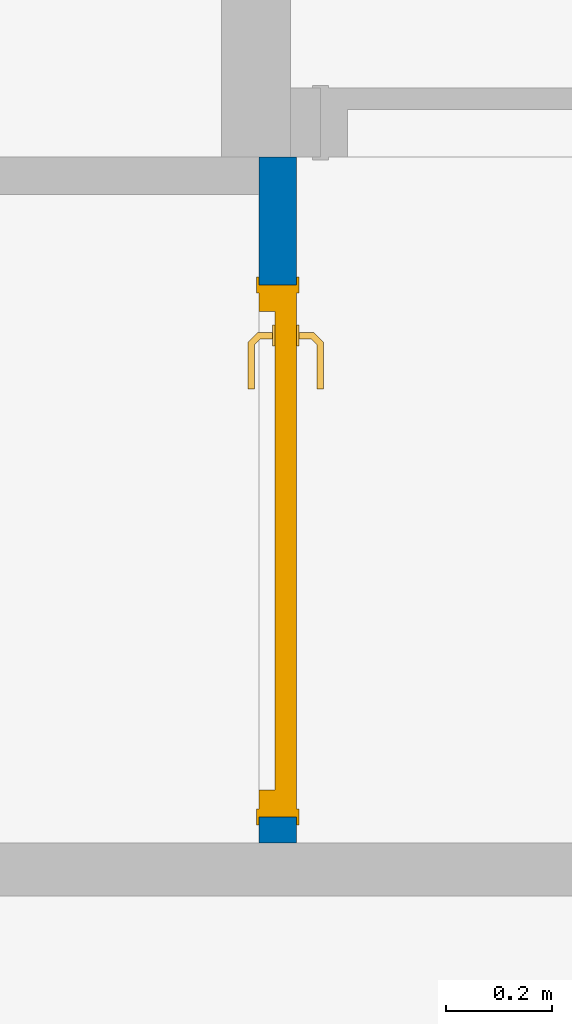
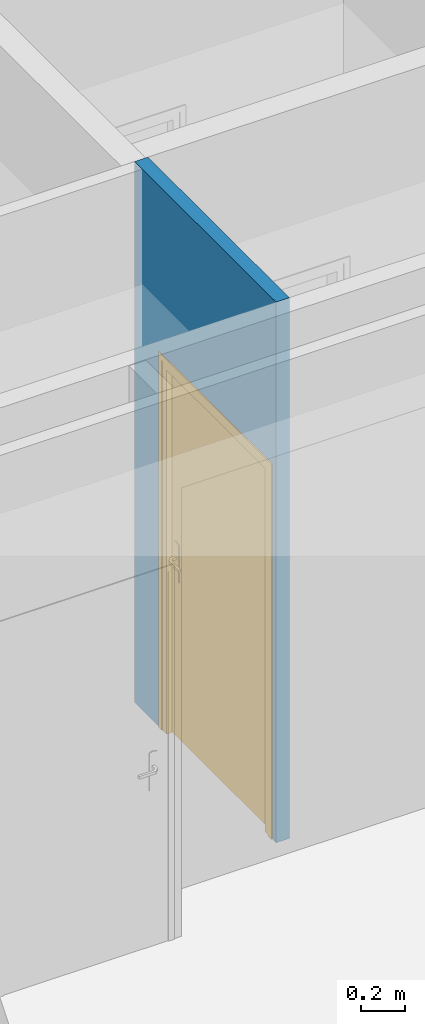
# One storey, part 38 of 97: 1 door, 1 wall, 1 opening.
"""IFC4 building model written with IfcOpenShell, lengths in metres."""

from ifc_helpers import new_model, entity, si_unit, converted_unit, derived_unit, direction, frame, origin, place, context, subcontext, project, spatial, indexed_curve, outline, extrude, polygons, source, transform, mapped, material, material_list, layer, layer_set, constituent, constituent_set, type_object, type_shapes, element, fill, save


model = new_model("IFC4")

# Units and contexts
model_context = context("Model", 3, precision=1e-05, world=origin(), true_north=direction((6.12303176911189e-17, 1.0)))
body_context = subcontext(model_context, "Body", "Model", "MODEL_VIEW")
ifc_project = project(units=[si_unit("LENGTHUNIT", "METRE"), si_unit("AREAUNIT", "SQUARE_METRE"), si_unit("VOLUMEUNIT", "CUBIC_METRE"), converted_unit("PLANEANGLEUNIT", "DEGREE", entity("IfcRatioMeasure", 0.0174532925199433), si_unit("PLANEANGLEUNIT", "RADIAN"), dimensions=[0, 0, 0, 0, 0, 0, 0]), si_unit("MASSUNIT", "GRAM", prefix="KILO"), derived_unit("MASSDENSITYUNIT", [(si_unit("MASSUNIT", "GRAM", prefix="KILO"), 1), (si_unit("LENGTHUNIT", "METRE"), -3)]), derived_unit("MOMENTOFINERTIAUNIT", [(si_unit("LENGTHUNIT", "METRE"), 4)]), si_unit("TIMEUNIT", "SECOND"), si_unit("FREQUENCYUNIT", "HERTZ"), si_unit("THERMODYNAMICTEMPERATUREUNIT", "DEGREE_CELSIUS"), derived_unit("THERMALTRANSMITTANCEUNIT", [(si_unit("MASSUNIT", "GRAM", prefix="KILO"), 1), (si_unit("THERMODYNAMICTEMPERATUREUNIT", "KELVIN"), -1), (si_unit("TIMEUNIT", "SECOND"), -3)]), derived_unit("VOLUMETRICFLOWRATEUNIT", [(si_unit("LENGTHUNIT", "METRE"), 3), (si_unit("TIMEUNIT", "SECOND"), -1)]), si_unit("ELECTRICCURRENTUNIT", "AMPERE"), si_unit("ELECTRICVOLTAGEUNIT", "VOLT"), si_unit("POWERUNIT", "WATT"), si_unit("FORCEUNIT", "NEWTON", prefix="KILO"), si_unit("ILLUMINANCEUNIT", "LUX"), si_unit("LUMINOUSFLUXUNIT", "LUMEN"), si_unit("LUMINOUSINTENSITYUNIT", "CANDELA"), derived_unit("USERDEFINED", [(si_unit("MASSUNIT", "GRAM", prefix="KILO"), -1), (si_unit("LENGTHUNIT", "METRE"), -2), (si_unit("TIMEUNIT", "SECOND"), 3), (si_unit("LUMINOUSFLUXUNIT", "LUMEN"), 1)]), derived_unit("LINEARVELOCITYUNIT", [(si_unit("LENGTHUNIT", "METRE"), 1), (si_unit("TIMEUNIT", "SECOND"), -1)]), si_unit("PRESSUREUNIT", "PASCAL"), derived_unit("USERDEFINED", [(si_unit("LENGTHUNIT", "METRE"), -2), (si_unit("MASSUNIT", "GRAM", prefix="KILO"), 1), (si_unit("TIMEUNIT", "SECOND"), -2)]), derived_unit("LINEARFORCEUNIT", [(si_unit("MASSUNIT", "GRAM", prefix="KILO"), 1), (si_unit("LENGTHUNIT", "METRE"), 1), (si_unit("TIMEUNIT", "SECOND"), -2), (si_unit("LENGTHUNIT", "METRE"), -1)]), derived_unit("PLANARFORCEUNIT", [(si_unit("MASSUNIT", "GRAM", prefix="KILO"), 1), (si_unit("LENGTHUNIT", "METRE"), 1), (si_unit("TIMEUNIT", "SECOND"), -2), (si_unit("LENGTHUNIT", "METRE"), -2)])], contexts=[model_context])

# Site, building, storey
site_placement = place(None, origin())
site = spatial("IfcSite", under=ifc_project, at=site_placement, Name="Default", CompositionType="ELEMENT")
building_placement = place(site_placement, origin())
building = spatial("IfcBuilding", under=site, at=building_placement, Name="HOTEL CONSULAIRE BOULOGNE SUR MER", CompositionType="ELEMENT")
storey_placement = place(building_placement, frame((0.0, 0.0, 3.62152697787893)))
storey = spatial("IfcBuildingStorey", under=building, at=storey_placement, Name="Niveau 1", CompositionType="ELEMENT", Elevation=3.62152697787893)

# Wall, opening, door
ifc_material_1 = material(Name="Mur par défaut", Category="Divers")
ifc_layer = layer(ifc_material_1, 0.07, Name="Mur par défaut", Category="Divers")
ifc_layer_set = layer_set([ifc_layer], Name="Mur de base:Int. Plâtre 70 mm")
wall_type = type_object("IfcWallType", Name="Mur de base:Int. Plâtre 70 mm", PredefinedType="NOTDEFINED", material=ifc_layer_set)
wall_placement = place(storey_placement, frame((-2.55413283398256, -22.5250276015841, 0.0), z_axis=(0.0, 0.0, 1.0), x_axis=(0.0, -1.0, 0.0)))
wall = element("IfcWall", 1, at=wall_placement, inside=storey, type_object=wall_type, material=ifc_layer_set, Name="Mur de base:Int. Plâtre 70 mm", ObjectType="Mur de base:Int. Plâtre 70 mm", PredefinedType="NOTDEFINED", context=body_context, shape_type="Tessellation", body=[
    polygons([(0.240663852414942, -0.0349999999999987, 0.0), (0.0700000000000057, -0.034999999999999, 0.0), (0.0, -0.0349999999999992, 0.0), (-4.33146851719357e-15, 0.0236041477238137, 0.0), (4.33146851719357e-15, 0.0350000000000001, 0.0), (0.240663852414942, 0.0350000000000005, 0.0), (1.28966385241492, -0.0349999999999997, 3.01021454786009), (0.0700000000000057, -0.0349999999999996, 3.01021454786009), (4.33146851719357e-15, -0.0349999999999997, 3.01021454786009), (0.240663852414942, -0.0349999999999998, 2.075), (1.24066385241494, -0.0349999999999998, 2.075), (1.24066385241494, -0.0349999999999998, 0.0), (1.28966385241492, -0.0349999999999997, 0.0), (4.33146851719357e-15, 0.0350000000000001, 3.01021454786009), (1.28966385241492, 0.0350000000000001, 3.01021454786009), (1.28966385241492, 0.0350000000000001, 0.0), (1.24066385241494, 0.035, 0.0), (1.24066385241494, 0.035, 2.075), (0.240663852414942, 0.035, 2.075), (4.33146851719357e-15, 0.0236041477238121, 3.01021454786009)], [[[2, 3, 4, 5, 6, 1]], [[19, 18, 11, 10]], [[12, 17, 16, 13]], [[9, 3, 2, 1, 10, 11, 12, 13, 7, 8]], [[16, 17, 18, 19, 6, 5, 14, 15]], [[8, 7, 15, 14, 20, 9]], [[13, 16, 15, 7]], [[6, 19, 10, 1]], [[18, 17, 12, 11]], [[4, 3, 9, 20, 14, 5]]], closed=True),
])
opening_placement = place(wall_placement, frame((0.240663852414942, -0.0349999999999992, 0.0)))
opening = element("IfcOpeningElement", 2, at=opening_placement, cuts=wall, Name="Int. Simple:PP0.93x2.04:1", ObjectType="Opening", PredefinedType="OPENING", context=body_context, shape_type="SweptSolid", body=[
    extrude(outline(indexed_curve([(0.0, 1.0), (0.0, 0.0), (2.075, 0.0), (2.075, 1.0), (0.0, 1.0)], self_intersect=False)), frame((0.0, 0.0, 0.0), z_axis=(0.0, 1.0, 0.0), x_axis=(0.0, 0.0, 1.0)), (0.0, 0.0, 1.0), 0.07),
])
ifc_material_2 = material(Name="Finition Peinture - Blanc satiné", Category="Peinture")
ifc_constituent_1 = constituent(ifc_material_2, Name="Finition Peinture - Blanc satiné", Category="Matériaux")
ifc_material_3 = material(Name="Bois - Panneau de porte", Category="Bois")
ifc_constituent_2 = constituent(ifc_material_3, Name="Bois - Panneau de porte", Category="Matériaux")
ifc_material_4 = material(Name="Bois - Cadre de porte", Category="Bois")
ifc_constituent_3 = constituent(ifc_material_4, Name="Bois - Cadre de porte", Category="Matériaux")
ifc_constituent_set = constituent_set(constituents=[ifc_constituent_1, ifc_constituent_2, ifc_constituent_3], Name="MaterialConstituentSet")
ifc_material_list = material_list([ifc_material_3, ifc_material_4, ifc_material_2, ifc_material_4])
door_type = type_object("IfcDoorType", Name="Int. Simple:PP0.93x2.04", OperationType="NOTDEFINED", PredefinedType="DOOR", material=ifc_material_list)
shared_shape = source(origin(), body_context, "Body", "Tessellation", [
    polygons([(0.995000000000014, -0.00500000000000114, 0.870000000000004), (0.995000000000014, -0.00500000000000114, 1.08), (0.985352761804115, -0.00500000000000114, 1.08399601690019), (0.975000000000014, -0.00500000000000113, 1.08535898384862), (0.964647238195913, -0.00500000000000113, 1.08399601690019), (0.955000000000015, -0.00500000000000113, 1.08), (0.955000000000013, -0.00500000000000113, 0.870000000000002), (0.964647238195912, -0.00500000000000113, 0.866003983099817), (0.975000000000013, -0.00500000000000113, 0.86464101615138), (0.985352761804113, -0.00500000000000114, 0.866003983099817), (0.995000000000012, -1.15054632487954e-15, 0.870000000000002), (0.985352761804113, -1.14631637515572e-15, 0.866003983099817), (0.975000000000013, -1.1420864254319e-15, 0.86464101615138), (0.964647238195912, -1.13785647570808e-15, 0.866003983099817), (0.955000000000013, -1.13362652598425e-15, 0.870000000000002), (0.955000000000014, -1.13362652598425e-15, 1.08), (0.964647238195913, -1.13785647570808e-15, 1.08399601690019), (0.975000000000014, -1.1420864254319e-15, 1.08535898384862), (0.985352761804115, -1.14631637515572e-15, 1.08399601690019), (0.995000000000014, -1.15054632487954e-15, 1.08)], [[[1, 2, 3, 4, 5, 6, 7, 8, 9, 10]], [[20, 11, 12, 13, 14, 15, 16, 17, 18, 19]], [[10, 12, 11, 1]], [[9, 13, 12, 10]], [[8, 14, 13, 9]], [[8, 7, 15, 14]], [[15, 7, 6, 16]], [[5, 17, 16, 6]], [[4, 18, 17, 5]], [[3, 19, 18, 4]], [[3, 2, 20, 19]], [[11, 20, 2, 1]]], closed=True),
    polygons([(0.955000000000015, 0.0399999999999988, 1.08), (0.955000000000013, 0.0399999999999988, 0.870000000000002), (0.964647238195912, 0.0399999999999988, 0.866003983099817), (0.975000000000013, 0.0399999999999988, 0.86464101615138), (0.985352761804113, 0.0399999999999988, 0.866003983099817), (0.995000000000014, 0.0399999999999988, 0.870000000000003), (0.995000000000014, 0.0399999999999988, 1.08), (0.985352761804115, 0.0399999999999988, 1.08399601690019), (0.975000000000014, 0.0399999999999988, 1.08535898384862), (0.964647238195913, 0.0399999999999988, 1.08399601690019), (0.955000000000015, 0.0449999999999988, 1.08), (0.964647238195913, 0.0449999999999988, 1.08399601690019), (0.975000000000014, 0.0449999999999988, 1.08535898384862), (0.985352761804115, 0.0449999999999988, 1.08399601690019), (0.995000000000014, 0.0449999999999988, 1.08), (0.995000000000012, 0.0449999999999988, 0.870000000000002), (0.985352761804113, 0.0449999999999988, 0.866003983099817), (0.975000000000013, 0.0449999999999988, 0.86464101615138), (0.964647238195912, 0.0449999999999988, 0.866003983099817), (0.955000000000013, 0.0449999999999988, 0.870000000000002)], [[[6, 7, 8, 9, 10, 1, 2, 3, 4, 5]], [[13, 14, 15, 16, 17, 18, 19, 20, 11, 12]], [[10, 12, 11, 1]], [[9, 13, 12, 10]], [[8, 14, 13, 9]], [[8, 7, 15, 14]], [[16, 15, 7, 6]], [[5, 17, 16, 6]], [[4, 18, 17, 5]], [[3, 19, 18, 4]], [[3, 2, 20, 19]], [[20, 2, 1, 11]]], closed=True),
    polygons([(0.981000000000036, -0.00500000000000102, 1.00699999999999), (0.981000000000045, -0.00500000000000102, 0.992999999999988), (0.977025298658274, -0.00500000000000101, 0.99221955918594), (0.972974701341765, -0.00500000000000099, 0.992219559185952), (0.968999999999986, -0.00500000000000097, 0.993000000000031), (0.968999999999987, -0.00500000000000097, 1.007), (0.972974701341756, -0.00500000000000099, 1.00778044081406), (0.977025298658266, -0.00500000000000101, 1.00778044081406), (0.968999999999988, -0.0276803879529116, 1.007), (0.972974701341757, -0.029326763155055, 1.00778044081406), (0.977025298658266, -0.0310045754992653, 1.00778044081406), (0.981000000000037, -0.0326509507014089, 1.007), (0.968999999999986, -0.027680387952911, 0.993000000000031), (0.981000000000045, -0.0326509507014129, 0.992999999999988), (0.977025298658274, -0.0310045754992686, 0.99221955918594), (0.972974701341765, -0.0293267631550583, 0.992219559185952), (0.957652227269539, -0.0390281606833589, 1.007), (0.959298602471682, -0.043002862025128, 1.00778044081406), (0.960976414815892, -0.0470534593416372, 1.00778044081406), (0.962622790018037, -0.0510281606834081, 1.007), (0.957652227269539, -0.0390281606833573, 0.993000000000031), (0.96262279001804, -0.0510281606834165, 0.992999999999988), (0.960976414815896, -0.047053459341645, 0.99221955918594), (0.959298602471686, -0.0430028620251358, 0.992219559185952), (0.874981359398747, -0.0510281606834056, 1.007), (0.874981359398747, -0.0470534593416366, 1.00778044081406), (0.874981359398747, -0.0430028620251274, 1.00778044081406), (0.874981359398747, -0.039028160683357, 1.00699999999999), (0.874981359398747, -0.0390281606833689, 0.993000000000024), (0.874981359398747, -0.0430028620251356, 0.992219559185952), (0.874981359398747, -0.0470534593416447, 0.99221955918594), (0.874981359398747, -0.0510281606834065, 0.992999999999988), (0.922692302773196, -0.0510281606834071, 1.007), (0.917139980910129, -0.0450281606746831, 1.0078786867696), (0.916316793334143, -0.0390281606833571, 1.007), (0.922692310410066, -0.0510281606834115, 0.992999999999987), (0.917139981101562, -0.0450281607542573, 0.992121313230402), (0.916316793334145, -0.039028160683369, 0.993000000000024)], [[[7, 8, 1, 2, 3, 4, 5, 6]], [[17, 21, 38, 29, 28, 35]], [[1, 8, 11, 12]], [[8, 7, 10, 18, 19, 11]], [[7, 6, 9, 10]], [[13, 9, 6, 5]], [[25, 26, 27, 28, 29, 30, 31, 32]], [[4, 16, 13, 5]], [[4, 3, 15, 23, 24, 16]], [[2, 14, 15, 3]], [[12, 14, 2, 1]], [[12, 11, 19, 20]], [[10, 9, 17, 18]], [[21, 17, 9, 13]], [[13, 16, 24, 21]], [[15, 14, 22, 23]], [[20, 22, 14, 12]], [[34, 26, 33]], [[33, 26, 25]], [[33, 20, 19]], [[18, 35, 34]], [[35, 18, 17]], [[28, 27, 35]], [[34, 27, 26]], [[34, 35, 27]], [[34, 33, 19]], [[18, 34, 19]], [[37, 30, 38]], [[31, 37, 36]], [[24, 38, 21]], [[30, 29, 38]], [[31, 36, 32]], [[36, 23, 22]], [[37, 23, 36]], [[37, 24, 23]], [[37, 38, 24]], [[30, 37, 31]], [[22, 20, 33, 25, 32, 36]]], closed=True),
    polygons([(0.968999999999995, 0.044999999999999, 0.993000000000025), (0.972974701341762, 0.044999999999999, 0.992219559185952), (0.977025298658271, 0.044999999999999, 0.99221955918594), (0.981000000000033, 0.044999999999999, 0.992999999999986), (0.981000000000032, 0.044999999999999, 1.007), (0.977025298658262, 0.044999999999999, 1.00778044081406), (0.972974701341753, 0.044999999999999, 1.00778044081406), (0.968999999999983, 0.044999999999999, 1.007), (0.968999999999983, 0.0674852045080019, 1.007), (0.968999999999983, 0.067485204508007, 0.993000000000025), (0.981000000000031, 0.0724557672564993, 1.007), (0.977025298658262, 0.0708093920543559, 1.00778044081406), (0.972974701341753, 0.0691315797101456, 1.00778044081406), (0.981000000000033, 0.0724557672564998, 0.992999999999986), (0.972974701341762, 0.0691315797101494, 0.992219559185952), (0.977025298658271, 0.0708093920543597, 0.99221955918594), (0.957514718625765, 0.0789704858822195, 1.007), (0.957514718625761, 0.0789704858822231, 0.993000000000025), (0.962485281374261, 0.0909704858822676, 1.007), (0.960838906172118, 0.0869957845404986, 1.00778044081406), (0.959161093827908, 0.0829451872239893, 1.00778044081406), (0.962485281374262, 0.090970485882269, 0.992999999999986), (0.959161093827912, 0.0829451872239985, 0.992219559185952), (0.960838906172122, 0.0869957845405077, 0.99221955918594), (0.874954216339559, 0.0789704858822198, 0.993000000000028), (0.874954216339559, 0.078970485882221, 1.007), (0.874954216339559, 0.08294518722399, 1.00778044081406), (0.874954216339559, 0.0869957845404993, 1.00778044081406), (0.874954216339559, 0.0909704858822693, 1.007), (0.874954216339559, 0.0909704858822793, 0.992999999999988), (0.874954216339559, 0.0869957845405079, 0.99221955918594), (0.874954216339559, 0.0829451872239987, 0.992219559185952), (0.922554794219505, 0.0909704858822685, 1.007), (0.917057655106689, 0.0849704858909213, 1.0078786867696), (0.916234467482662, 0.0789704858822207, 1.007), (0.922554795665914, 0.0909704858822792, 0.992999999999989), (0.917057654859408, 0.0849704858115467, 0.992121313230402), (0.916234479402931, 0.0789704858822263, 0.993000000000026)], [[[2, 3, 4, 5, 6, 7, 8, 1]], [[18, 17, 35, 26, 25, 38]], [[9, 10, 1, 8]], [[27, 28, 29, 30, 31, 32, 25, 26]], [[7, 13, 9, 8]], [[7, 6, 12, 20, 21, 13]], [[5, 11, 12, 6]], [[11, 5, 4, 14]], [[4, 3, 16, 14]], [[3, 2, 15, 23, 24, 16]], [[2, 1, 10, 15]], [[17, 18, 10, 9]], [[9, 13, 21, 17]], [[11, 19, 20, 12]], [[22, 19, 11, 14]], [[14, 16, 24, 22]], [[15, 10, 18, 23]], [[34, 27, 35]], [[28, 34, 33]], [[21, 35, 17]], [[27, 26, 35]], [[28, 33, 29]], [[33, 20, 19]], [[34, 20, 33]], [[34, 21, 20]], [[34, 35, 21]], [[27, 34, 28]], [[19, 22, 36, 30, 29, 33]], [[37, 31, 36]], [[36, 31, 30]], [[36, 22, 24]], [[23, 38, 37]], [[38, 23, 18]], [[25, 32, 38]], [[37, 32, 31]], [[37, 38, 32]], [[37, 36, 24]], [[23, 37, 24]]], closed=True),
    polygons([(1.03500000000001, 0.04, 2.04), (1.03500000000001, 0.04, 0.0), (0.105000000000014, 0.04, 0.0), (0.105000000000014, 0.04, 2.04), (1.03500000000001, -5.07593966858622e-17, 2.04), (0.105000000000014, -5.07593966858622e-17, 2.04), (0.105000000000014, -5.07593966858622e-17, 0.0), (1.03500000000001, -5.07593966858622e-17, 0.0)], [[[3, 4, 1, 2]], [[8, 5, 6, 7]], [[5, 1, 4, 6]], [[6, 4, 3, 7]], [[7, 3, 2, 8]], [[8, 2, 1, 5]]], closed=True),
    polygons([(1.07000000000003, -4.22994972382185e-18, 0.0), (1.03500000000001, -4.22994972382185e-18, 0.0), (1.03500000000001, 0.04, 0.0), (1.02000000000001, 0.04, 0.0), (1.02000000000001, 0.0699999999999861, 0.0), (1.07000000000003, 0.0699999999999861, 0.0), (1.07000000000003, 0.0699999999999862, 2.07500000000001), (1.07000000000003, -4.22994972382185e-18, 2.07500000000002), (1.02000000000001, 0.0699999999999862, 2.025), (0.120000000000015, 0.0699999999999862, 2.025), (0.120000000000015, 0.0699999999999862, -2.91614501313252e-25), (0.0699999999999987, 0.0699999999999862, 5.63787022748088e-24), (0.0699999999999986, 0.0699999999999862, 2.07500000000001), (1.02000000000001, 0.04, 2.025), (1.03500000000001, 0.04, 2.04), (0.105000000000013, 0.04, 2.04), (0.105000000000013, 0.04, -4.78103040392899e-25), (0.120000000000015, 0.04, -5.82688076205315e-24), (0.120000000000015, 0.04, 2.025), (1.03500000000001, -4.22994972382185e-18, 2.04), (0.0699999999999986, -4.22994972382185e-18, 2.07500000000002), (0.0699999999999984, -4.22994972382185e-18, -7.90980323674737e-25), (0.105000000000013, -4.22994972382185e-18, -1.66105658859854e-24), (0.105000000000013, -4.22994972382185e-18, 2.04)], [[[4, 5, 6, 1, 2, 3]], [[17, 23, 22, 12, 11, 18]], [[19, 10, 9, 14]], [[24, 16, 15, 20]], [[7, 8, 1, 6]], [[11, 10, 19, 18]], [[17, 16, 24, 23]], [[9, 10, 11, 12, 13, 7, 6, 5]], [[9, 5, 4, 14]], [[15, 3, 2, 20]], [[12, 22, 21, 13]], [[19, 14, 4, 3, 15, 16, 17, 18]], [[24, 20, 2, 1, 8, 21, 22, 23]], [[13, 21, 8, 7]]], closed=True),
    polygons([(1.05500000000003, 0.0699999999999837, 0.0), (1.05500000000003, 0.0749999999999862, 0.0), (1.08500000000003, 0.0749999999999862, 0.0), (1.08500000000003, 0.0699999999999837, 0.0), (1.08500000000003, 0.0699999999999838, 2.09000000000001), (0.0550000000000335, 0.0699999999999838, 2.09000000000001), (0.0550000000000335, 0.0699999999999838, -9.00794253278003e-25), (0.0850000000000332, 0.0699999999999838, -1.80158915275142e-24), (0.0850000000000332, 0.0699999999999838, 2.06000000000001), (1.05500000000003, 0.0699999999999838, 2.06000000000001), (1.08500000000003, 0.0749999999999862, 2.09000000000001), (1.05500000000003, 0.0749999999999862, 2.06000000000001), (0.0850000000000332, 0.0749999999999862, 2.06000000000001), (0.0850000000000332, 0.0749999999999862, -4.03399441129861e-24), (0.0550000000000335, 0.0749999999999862, -4.03399441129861e-24), (0.0550000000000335, 0.0749999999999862, 2.09000000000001)], [[[2, 3, 4, 1]], [[7, 15, 14, 8]], [[9, 13, 12, 10]], [[9, 10, 1, 4, 5, 6, 7, 8]], [[11, 5, 4, 3]], [[8, 14, 13, 9]], [[12, 13, 14, 15, 16, 11, 3, 2]], [[10, 12, 2, 1]], [[15, 7, 6, 16]], [[6, 5, 11, 16]]], closed=True),
    polygons([(1.05500000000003, -0.005, 0.0), (1.05500000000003, -8.33300095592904e-16, 0.0), (1.08500000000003, -8.33300095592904e-16, 0.0), (1.08500000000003, -0.005, 0.0), (0.0850000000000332, -0.005, 5.41433564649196e-16), (0.0550000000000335, -0.005, 5.41433564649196e-16), (0.0550000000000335, -8.33300095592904e-16, 5.41433564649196e-16), (0.0850000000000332, -8.33300095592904e-16, 5.41433564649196e-16), (1.08500000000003, -0.005, 2.09000000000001), (0.0550000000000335, -0.005, 2.09000000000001), (0.0850000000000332, -0.005, 2.06000000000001), (1.05500000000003, -0.005, 2.06000000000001), (1.08500000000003, -8.33300095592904e-16, 2.09000000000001), (1.05500000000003, -8.33300095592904e-16, 2.06000000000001), (0.0850000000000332, -8.33300095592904e-16, 2.06000000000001), (0.0550000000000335, -8.33300095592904e-16, 2.09000000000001)], [[[2, 3, 4, 1]], [[6, 7, 8, 5]], [[15, 14, 12, 11]], [[11, 12, 1, 4, 9, 10, 6, 5]], [[9, 4, 3, 13]], [[5, 8, 15, 11]], [[14, 15, 8, 7, 16, 13, 3, 2]], [[14, 2, 1, 12]], [[6, 10, 16, 7]], [[10, 9, 13, 16]]], closed=True),
])
type_shapes(door_type, [shared_shape])
door_placement = place(opening_placement, frame((1.07000000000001, 0.0699999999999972, 0.0), z_axis=(0.0, 0.0, 1.0), x_axis=(-1.0, 0.0, 0.0)))
door = element("IfcDoor", 3, at=door_placement, inside=storey, type_object=door_type, material=ifc_constituent_set, Name="Int. Simple:PP0.93x2.04", ObjectType="Int. Simple:PP0.93x2.04", OperationType="NOTDEFINED", OverallHeight=2.075, OverallWidth=1.0, PredefinedType="DOOR", context=body_context, shape_type="MappedRepresentation", body=[
    mapped(shared_shape, transform((0.0, 0.0, 0.0), scale=1.0)),
])
fill(opening, door)

save(model, "model.ifc")
